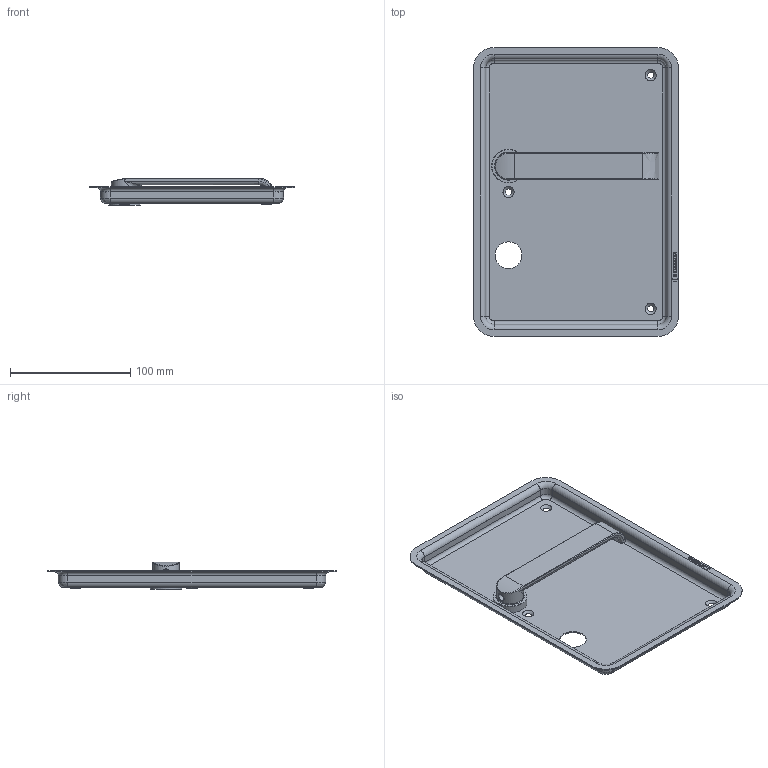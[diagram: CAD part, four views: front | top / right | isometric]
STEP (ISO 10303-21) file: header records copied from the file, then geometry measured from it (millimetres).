
FILE_DESCRIPTION(/* description */ (''),/* implementation_level */ '2;1');
FILE_NAME(/* name */ 'C:\ADSK_DMS_WS\Designs\Vorschläge\Loc Schalen\Muschel Serie 3\S3.13.D1\Heusser-Muschel S3.13.D1.274R.stp',/* time_stamp */ '2020-10-15T16:00:27+02:00',/* author */ ('gm'),/* organization */ (''),/* preprocessor_version */ 'ST-DEVELOPER v16.5',/* originating_system */ 'Autodesk Inventor 2017',/* authorisation */ '');
FILE_SCHEMA (('AUTOMOTIVE_DESIGN { 1 0 10303 214 3 1 1 }'));
Length unit declared in the file: millimetre
Products named in the file (1): S3.13.D1
Bounding box: 170 x 240 x 23 mm (x, y, z)
Volume: 67422.5 mm3; surface area: 105736.3 mm2
Topology: 1 solids, 2 shells, 303 faces, 758 edges, 480 vertices
Faces by surface type: plane 130, bspline 82, cylinder 60, cone 16, torus 15
Full cylindrical faces by diameter (mm): 1.7 x2, 6 x1, 14.2 x1, 16 x3, 18 x1, 19 x1, 19.1 x1, 22 x1, 22.3 x1, 23 x1, 23.2 x1, 24 x1, 25 x1, 26 x1, 28 x1
Entity records: 10146 total; most frequent: CARTESIAN_POINT 3018, ORIENTED_EDGE 1428, DIRECTION 1252, EDGE_CURVE 714, VERTEX_POINT 474, AXIS2_PLACEMENT_3D 430, LINE 392, VECTOR 392
